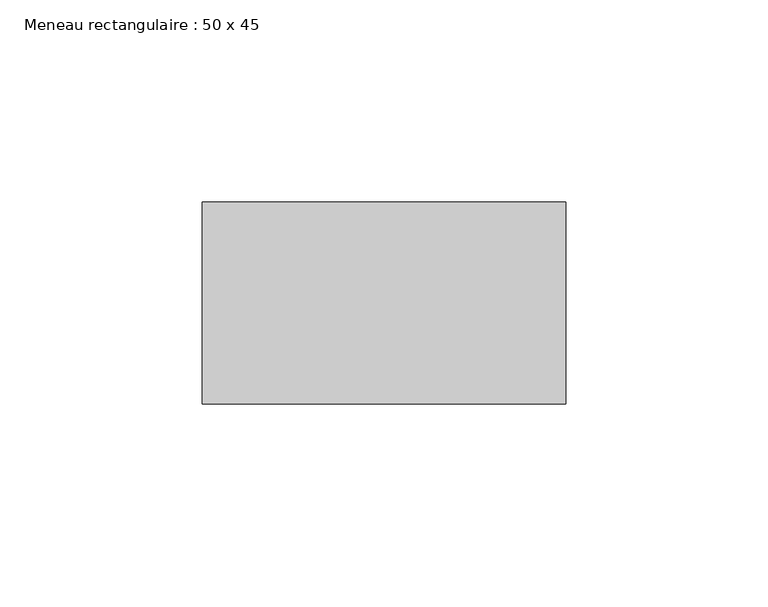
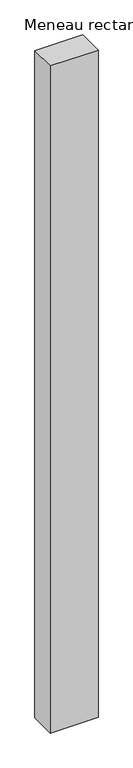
"""IFC4 building model written with IfcOpenShell, lengths in millimetres: member geometry, Meneau rectangulaire : 50 x 45."""

from ifc_helpers import new_model, si_unit, frame, origin, place, context, project, spatial, polyline, outline, extrude, source, transform, mapped, element, save


def meneau_rectangulaire_50_x_45_9c0b20cf(model_context):
    return source(origin(), model_context, "Body", "SweptSolid", [
        extrude(outline(polyline([(0.0, 0.0), (0.0, -50.0), (-90.0, -50.0), (-90.0, 0.0), (0.0, 0.0)])), frame((0.0, 0.0, -1327.7319859), z_axis=(0.0, 0.0, 1.0), x_axis=(1.0, 0.0, 0.0)), (0.0, 0.0, 1.0), 1327.7319859),
    ])


if __name__ == "__main__":
    model = new_model("IFC4")
    model_context = context("Model", 3, world=origin())
    ifc_project = project(units=[si_unit("LENGTHUNIT", "METRE", prefix="MILLI")], contexts=[model_context])
    site = spatial("IfcSite", under=ifc_project)
    building = spatial("IfcBuilding", under=site)
    placement = place(None, origin())
    meneau_rectangulaire_50_x_45_shape = meneau_rectangulaire_50_x_45_9c0b20cf(model_context)
    element("IfcMember", 1, ObjectType="Meneau rectangulaire : 50 x 45", at=placement, inside=building, context=model_context, shape_type="MappedRepresentation", body=[
        mapped(meneau_rectangulaire_50_x_45_shape, transform((0.0, 0.0, 0.0), x_axis=(1.0, 0.0, 0.0), y_axis=(0.0, 1.0, 0.0), z_axis=(0.0, 0.0, 1.0))),
    ])
    save(model, "model.ifc")
